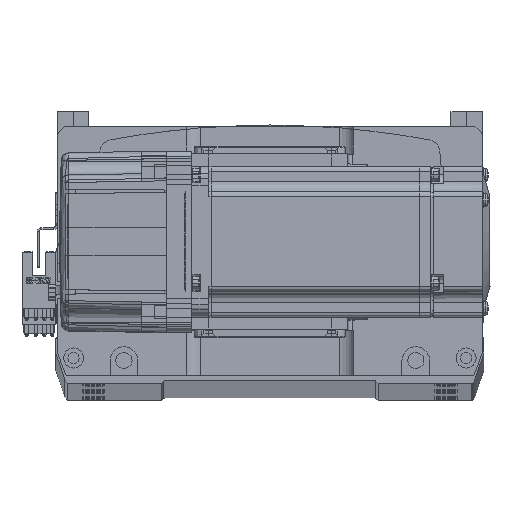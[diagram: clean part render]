
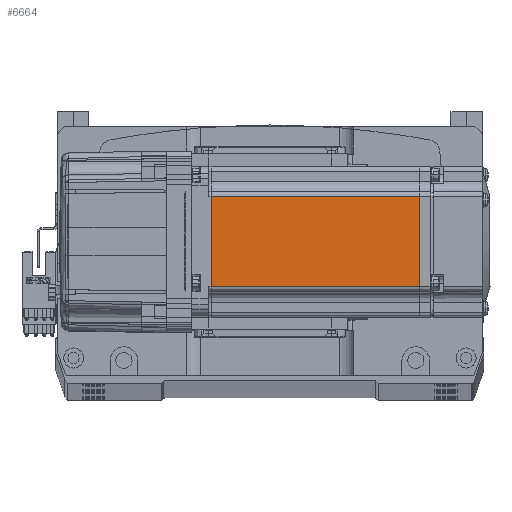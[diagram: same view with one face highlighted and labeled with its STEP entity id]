
A CAD part, top view. The second image highlights one B-rep face of the part: STEP entity #6664.
In plain terms, the highlighted planar face has unit normal (0, 0, 1) as drawn and (0, -1, 0) by its records, which use the part's own axes.
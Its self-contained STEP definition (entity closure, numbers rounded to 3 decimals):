
#2240 = DIRECTION ( 'NONE',  ( 0., 0., -1. ) ) ;
#2624 = ORIENTED_EDGE ( 'NONE', *, *, #30876, .T. ) ;
#3324 = ORIENTED_EDGE ( 'NONE', *, *, #21855, .T. ) ;
#6664 = ADVANCED_FACE ( 'NONE', ( #26837 ), #19215, .T. ) ;
#7252 = CARTESIAN_POINT ( 'NONE',  ( -90.45, -30., 18. ) ) ;
#8082 = CARTESIAN_POINT ( 'NONE',  ( -6.5, -30., -25. ) ) ;
#8846 = VERTEX_POINT ( 'NONE', #24612 ) ;
#14584 = CARTESIAN_POINT ( 'NONE',  ( -7.75, -30., -25. ) ) ;
#14856 = VECTOR ( 'NONE', #59485, 1000. ) ;
#16932 = VERTEX_POINT ( 'NONE', #7252 ) ;
#19215 = PLANE ( 'NONE',  #23281 ) ;
#21855 = EDGE_CURVE ( 'NONE', #16932, #38514, #42486, .T. ) ;
#23281 = AXIS2_PLACEMENT_3D ( 'NONE', #8082, #43494, #2240 ) ;
#24612 = CARTESIAN_POINT ( 'NONE',  ( -7.75, -30., -18. ) ) ;
#25232 = LINE ( 'NONE', #14584, #64930 ) ;
#25342 = CARTESIAN_POINT ( 'NONE',  ( -90.45, -30., -18. ) ) ;
#26764 = VERTEX_POINT ( 'NONE', #29103 ) ;
#26837 = FACE_OUTER_BOUND ( 'NONE', #42747, .T. ) ;
#29103 = CARTESIAN_POINT ( 'NONE',  ( -7.75, -30., 18. ) ) ;
#30876 = EDGE_CURVE ( 'NONE', #8846, #26764, #25232, .T. ) ;
#34127 = DIRECTION ( 'NONE',  ( 0., 0., -1. ) ) ;
#38075 = VECTOR ( 'NONE', #43600, 1000. ) ;
#38514 = VERTEX_POINT ( 'NONE', #25342 ) ;
#42486 = LINE ( 'NONE', #68432, #68602 ) ;
#42747 = EDGE_LOOP ( 'NONE', ( #2624, #55661, #3324, #73086 ) ) ;
#43494 = DIRECTION ( 'NONE',  ( 0., -1., 0. ) ) ;
#43600 = DIRECTION ( 'NONE',  ( -1., 0., 0. ) ) ;
#44750 = LINE ( 'NONE', #59722, #14856 ) ;
#50629 = EDGE_CURVE ( 'NONE', #38514, #8846, #44750, .T. ) ;
#54339 = LINE ( 'NONE', #71788, #38075 ) ;
#54603 = EDGE_CURVE ( 'NONE', #26764, #16932, #54339, .T. ) ;
#55661 = ORIENTED_EDGE ( 'NONE', *, *, #54603, .T. ) ;
#59485 = DIRECTION ( 'NONE',  ( 1., 0., 0. ) ) ;
#59722 = CARTESIAN_POINT ( 'NONE',  ( -6.5, -30., -18. ) ) ;
#64930 = VECTOR ( 'NONE', #71622, 1000. ) ;
#68432 = CARTESIAN_POINT ( 'NONE',  ( -90.45, -30., -25. ) ) ;
#68602 = VECTOR ( 'NONE', #34127, 1000. ) ;
#71622 = DIRECTION ( 'NONE',  ( 0., 0., 1. ) ) ;
#71788 = CARTESIAN_POINT ( 'NONE',  ( -6.5, -30., 18. ) ) ;
#73086 = ORIENTED_EDGE ( 'NONE', *, *, #50629, .T. ) ;
